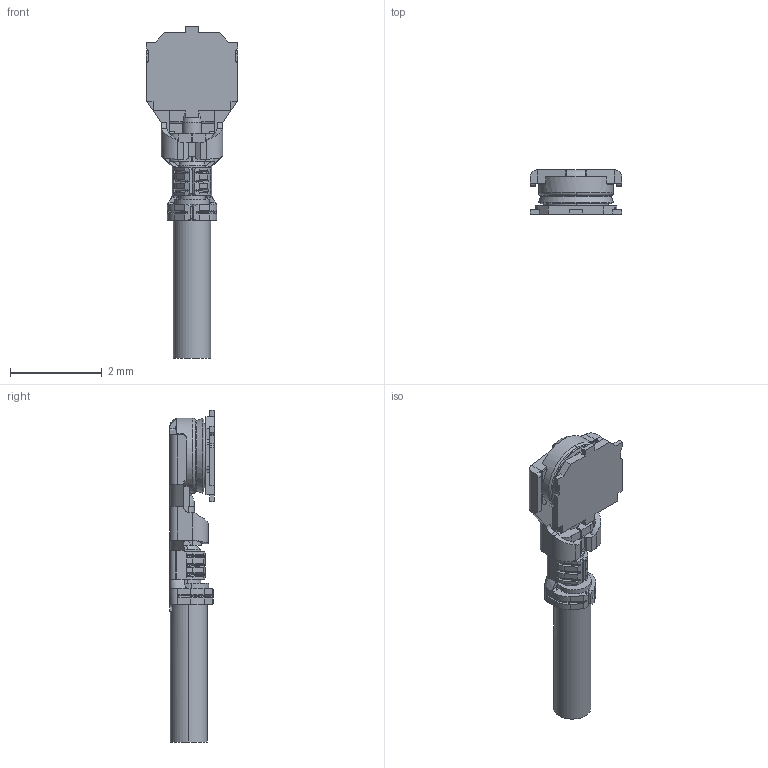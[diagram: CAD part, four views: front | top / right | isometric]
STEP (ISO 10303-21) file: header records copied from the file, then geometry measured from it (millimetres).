
FILE_DESCRIPTION (( 'STEP AP203' ), '1' );
FILE_NAME ('20566C + 20711C(0.81) MATING R6R2 ALL.STEP', '2018-06-11T05:35:38', ( '' ), ( '' ), 'SwSTEP 2.0', 'SolidWorks 2017', '' );
FILE_SCHEMA (( 'CONFIG_CONTROL_DESIGN' ));
Length unit declared in the file: millimetre
Products named in the file (1): 20566C + 20711C(0.81) MATING R6R2 ALL
Bounding box: 2 x 0.97 x 7.24 mm (x, y, z)
Volume: 5.6 mm3; surface area: 34.5 mm2
Topology: 1 solids, 1 shells, 408 faces, 1131 edges, 728 vertices
Faces by surface type: plane 230, cylinder 107, bspline 25, torus 23, cone 23
Entity records: 13765 total; most frequent: CARTESIAN_POINT 3392, ORIENTED_EDGE 2262, DIRECTION 2036, EDGE_CURVE 1131, VECTOR 732, LINE 732, VERTEX_POINT 728, AXIS2_PLACEMENT_3D 652
